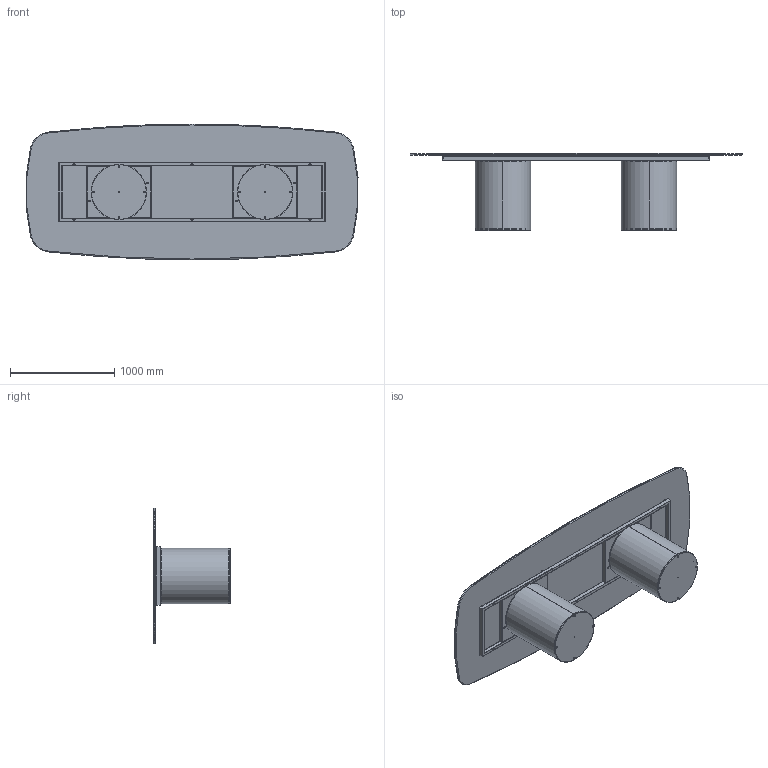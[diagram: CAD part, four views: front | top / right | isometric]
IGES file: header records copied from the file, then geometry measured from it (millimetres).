
Start section: SolidWorks IGES file using analytic representation for surfaces
Global section: file name: Y:\eforma\TECNICO\SOLIDWORKS\E-FORMA\1-TAVOLI\CILINDRO\02 parts\CI47C.IGS; native system: SolidWorks 2022; preprocessor: SolidWorks 2022; author: eforma.tech; date: 240808.091411; units: millimetre
Bounding box: 3179.54 x 736 x 1300 mm (x, y, z)
Volume: 76111577.1 mm3; surface area: 24592018.3 mm2
Topology: 39 solids, 39 shells, 995 faces, 2265 edges, 1306 vertices
Faces by surface type: revolution 551, plane 444
